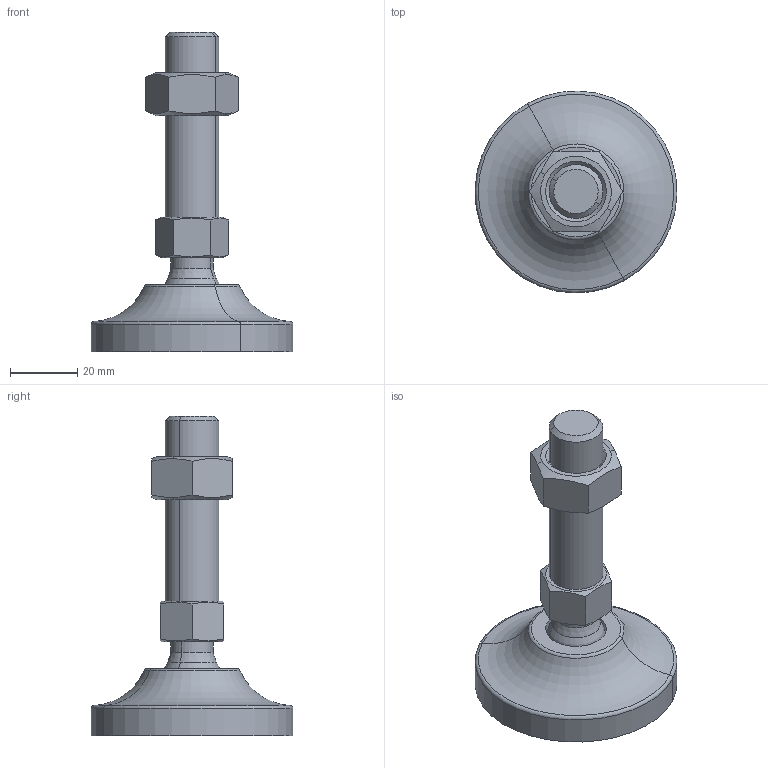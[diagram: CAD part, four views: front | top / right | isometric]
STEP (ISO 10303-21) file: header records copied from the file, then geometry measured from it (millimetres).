
FILE_DESCRIPTION(('CATIA V5 STEP Exchange'),'2;1');
FILE_NAME('C:\Users\ALI OZGUN\Desktop\alhan\saplama2\560601610.stp','2017-09-21T10:33:44+00:00',('none'),('none'),'CATIA Version 5 Release 21 GA (IN-10)','CATIA V5 STEP AP203','none');
FILE_SCHEMA(('CONFIG_CONTROL_DESIGN'));
Length unit declared in the file: millimetre
Products named in the file (1): 560601610
Bounding box: 59.98 x 59.98 x 95 mm (x, y, z)
Volume: 46677.9 mm3; surface area: 16031.7 mm2
Topology: 3 solids, 3 shells, 60 faces, 136 edges, 83 vertices
Faces by surface type: plane 20, cone 16, cylinder 14, torus 6, revolution 2, sphere 2
Entity records: 1852 total; most frequent: CARTESIAN_POINT 610, ORIENTED_EDGE 268, DIRECTION 186, EDGE_CURVE 134, AXIS2_PLACEMENT_3D 100, VERTEX_POINT 83, EDGE_LOOP 67, ADVANCED_FACE 60
